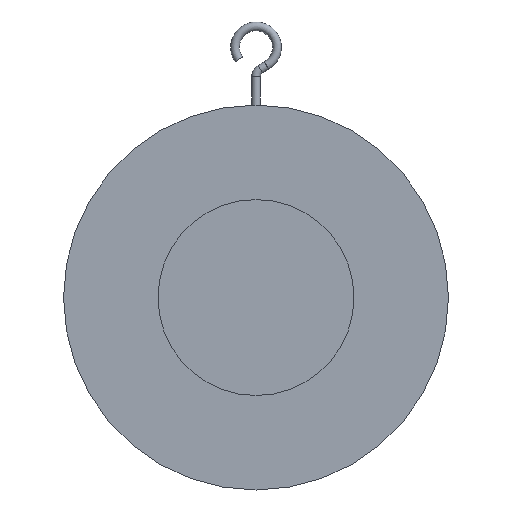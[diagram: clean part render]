
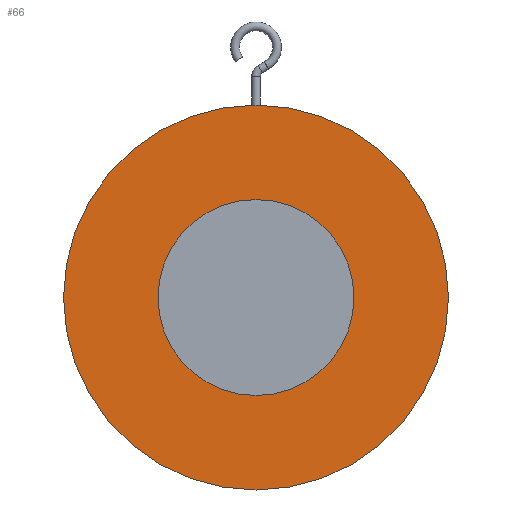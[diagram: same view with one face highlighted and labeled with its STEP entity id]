
A CAD part, front view. The second image highlights one B-rep face of the part: STEP entity #66.
In plain terms, the highlighted planar face has unit normal (0, -1, 0).
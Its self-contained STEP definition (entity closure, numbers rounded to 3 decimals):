
#66=ADVANCED_FACE('',(#203,#205),#207,.T.);
#203=FACE_BOUND('',#204,.T.);
#204=EDGE_LOOP('',(#315));
#205=FACE_BOUND('',#206,.T.);
#206=EDGE_LOOP('',(#316));
#207=PLANE('',#208);
#208=AXIS2_PLACEMENT_3D('',#209,#210,#211);
#209=CARTESIAN_POINT('',(0.,-10.,0.));
#210=DIRECTION('',(0.,-1.,0.));
#211=DIRECTION('',(0.,0.,1.));
#315=ORIENTED_EDGE('',*,*,#356,.F.);
#316=ORIENTED_EDGE('',*,*,#358,.T.);
#356=EDGE_CURVE('',#383,#383,#384,.T.);
#358=EDGE_CURVE('',#387,#387,#388,.T.);
#383=VERTEX_POINT('',#608);
#384=CIRCLE('',#609,110.);
#387=VERTEX_POINT('',#618);
#388=CIRCLE('',#619,56.);
#608=CARTESIAN_POINT('',(0.,-10.,110.));
#609=AXIS2_PLACEMENT_3D('',#610,#611,#612);
#610=CARTESIAN_POINT('',(0.,-10.,0.));
#611=DIRECTION('',(0.,1.,0.));
#612=DIRECTION('',(0.,0.,1.));
#618=CARTESIAN_POINT('',(0.,-10.,56.));
#619=AXIS2_PLACEMENT_3D('',#620,#621,#622);
#620=CARTESIAN_POINT('',(0.,-10.,0.));
#621=DIRECTION('',(0.,1.,0.));
#622=DIRECTION('',(0.,0.,1.));
